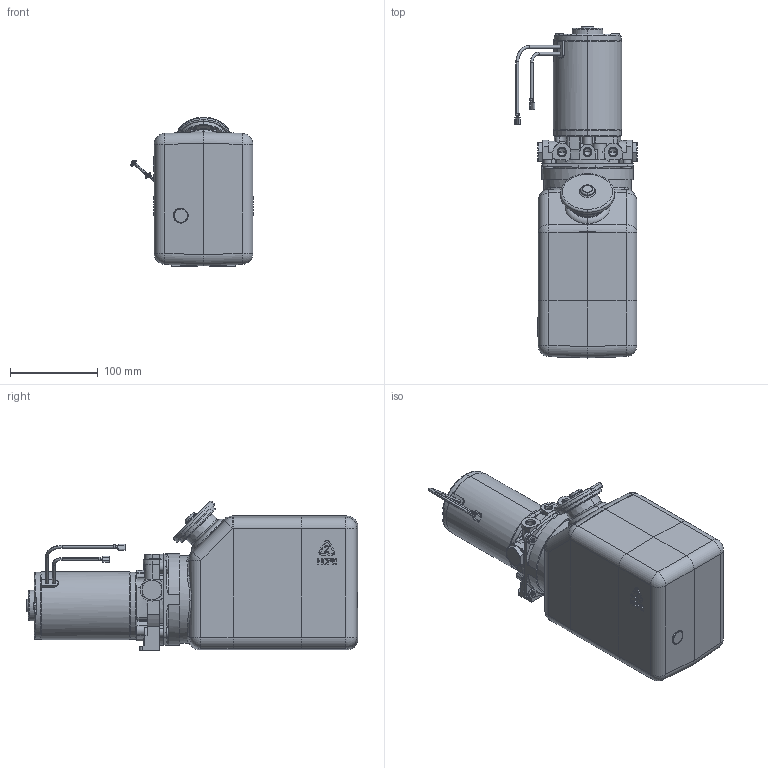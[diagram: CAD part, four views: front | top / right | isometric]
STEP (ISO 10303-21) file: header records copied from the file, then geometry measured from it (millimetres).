
FILE_DESCRIPTION((''),'2;1');
FILE_NAME('108-AE-BE-Q_ASM','2010-01-07T',('dctmp01'),('OILDYNE'),'PRO/ENGINEER BY PARAMETRIC TECHNOLOGY CORPORATION, 2005380','PRO/ENGINEER BY PARAMETRIC TECHNOLOGY CORPORATION, 2005380','');
FILE_SCHEMA(('CONFIG_CONTROL_DESIGN'));
Length unit declared in the file: inch
Products named in the file (23): 108_ADAPTER_BLANK; 410497; 361182; 410728; 773764_ASM; 414239_AF0; 413926_AF0; 414231; 414231_AF0; 413924_AF0_ASM; 413925_ASM; 414230_AF0; 414227; 414229; 413738; 413922_ASM; 413740; 413741; 413127; 402664; 775556_ASM; 413742_ASM; 108-AE-BE-Q_ASM
Assembly tree (25 placements, depth 5):
  108-AE-BE-Q_ASM
    108_ADAPTER_BLANK
    410497
    773764_ASM  x2
      361182
      410728
    413922_ASM
      413925_ASM
        414239_AF0
        413924_AF0_ASM
          413926_AF0
          414231  x3
          414231_AF0
      414230_AF0
      414227
      414229
      413738
    413742_ASM
      413740
      413741
      775556_ASM
        413127
        402664
Bounding box: 138.97 x 377.88 x 170.13 mm (x, y, z)
Volume: 1113743.4 mm3; surface area: 385158.3 mm2
Topology: 20 solids, 20 shells, 1477 faces, 3766 edges, 2393 vertices
Faces by surface type: plane 637, cylinder 490, cone 172, torus 127, bspline 31, sphere 20
Entity records: 47299 total; most frequent: CARTESIAN_POINT 11912, DIRECTION 7489, ORIENTED_EDGE 7256, EDGE_CURVE 3628, AXIS2_PLACEMENT_3D 2793, VERTEX_POINT 2317, VECTOR 1903, LINE 1903
